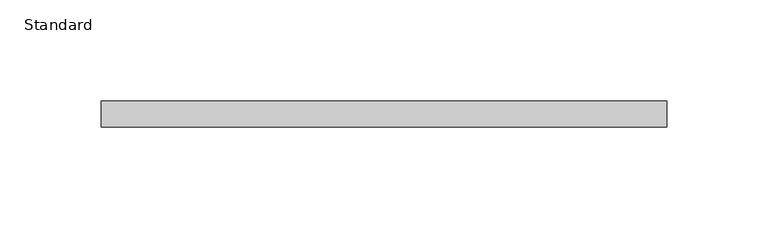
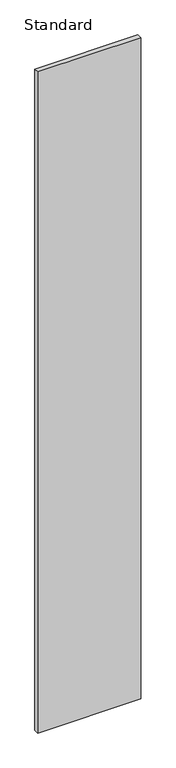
"""IFC4 building model written with IfcOpenShell, lengths in millimetres: furniture geometry, X_Partition-Compact Laminate-Duracube-Rectangular : Standard."""

from ifc_helpers import new_model, si_unit, origin, origin_with_axes, place, context, project, spatial, polyline, outline, extrude, source, transform, mapped, element, save


def standard_118d20a8(model_context):
    return source(origin(), model_context, "Body", "SweptSolid", [
        extrude(outline(polyline([(184.7003264, 0.0), (184.7003264, -13.0), (-95.2996736, -13.0), (-95.2996736, 0.0), (184.7003264, 0.0)])), origin_with_axes(), (0.0, 0.0, 1.0), 1900.0),
    ])


if __name__ == "__main__":
    model = new_model("IFC4")
    model_context = context("Model", 3, world=origin())
    ifc_project = project(units=[si_unit("LENGTHUNIT", "METRE", prefix="MILLI")], contexts=[model_context])
    site = spatial("IfcSite", under=ifc_project)
    building = spatial("IfcBuilding", under=site)
    placement = place(None, origin())
    standard_shape = standard_118d20a8(model_context)
    element("IfcFurniture", 1, ObjectType="X_Partition-Compact Laminate-Duracube-Rectangular : Standard", at=placement, inside=building, context=model_context, shape_type="MappedRepresentation", body=[
        mapped(standard_shape, transform((0.0, 0.0, 0.0), x_axis=(1.0, 0.0, 0.0), y_axis=(0.0, 1.0, 0.0), z_axis=(0.0, 0.0, 1.0))),
    ])
    save(model, "model.ifc")
